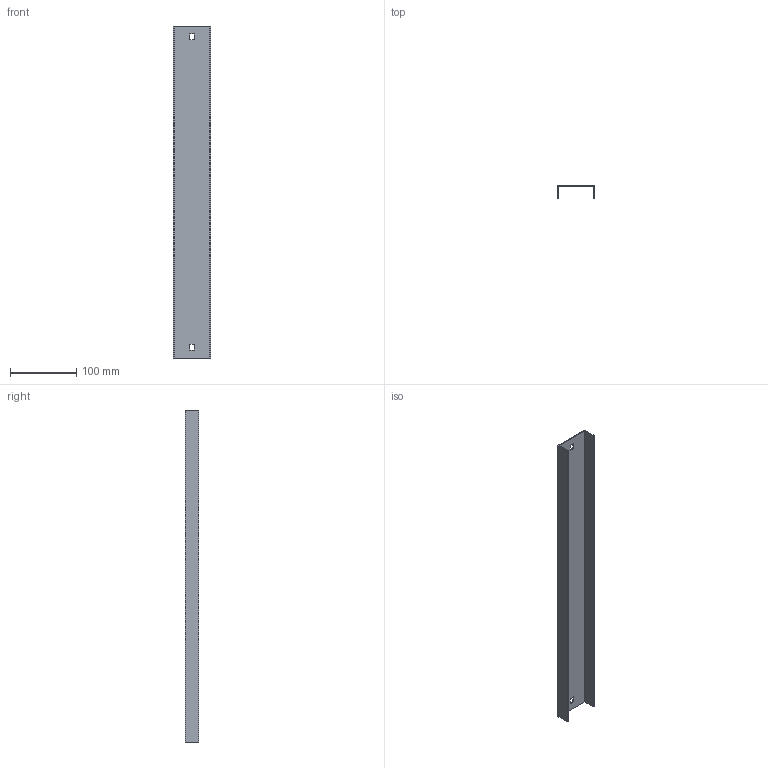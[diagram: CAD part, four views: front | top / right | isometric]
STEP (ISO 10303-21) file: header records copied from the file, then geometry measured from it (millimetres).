
FILE_DESCRIPTION (( 'STEP AP214' ), '1' );
FILE_NAME ('05G7R050.step', '2025-02-21T13:08:10', ( '' ), ( '' ), 'SwSTEP 2.0', 'SolidWorks 2023', '' );
FILE_SCHEMA (( 'AUTOMOTIVE_DESIGN' ));
Length unit declared in the file: millimetre
Products named in the file (1): 05G7R050
Bounding box: 57 x 20 x 500 mm (x, y, z)
Volume: 70324.5 mm3; surface area: 95641 mm2
Topology: 1 solids, 1 shells, 18 faces, 48 edges, 32 vertices
Faces by surface type: plane 18
Entity records: 583 total; most frequent: CARTESIAN_POINT 99, ORIENTED_EDGE 96, DIRECTION 86, EDGE_CURVE 48, LINE 48, VECTOR 48, VERTEX_POINT 32, EDGE_LOOP 22
